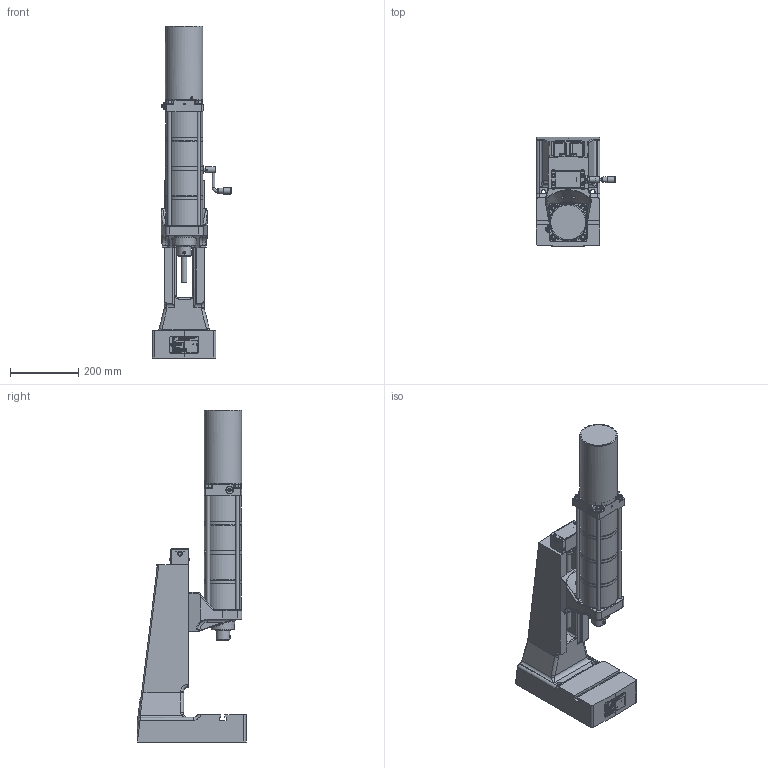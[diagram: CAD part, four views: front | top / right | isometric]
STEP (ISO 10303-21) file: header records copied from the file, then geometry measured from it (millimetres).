
FILE_DESCRIPTION(/* description */ ('Bausatz Ständer T460 N HV-OST'),/* implementation_level */ '2;1');
FILE_NAME(/* name */ 'B:\02_CAD_oeffentlich\CAD_3D_oeffentlich_step\Druckluftpresse\DRP_1700_040_100.stp',/* time_stamp */ '2017-08-25T08:47:36+02:00',/* author */ ('Finsterle'),/* organization */ (''),/* preprocessor_version */ 'ST-DEVELOPER v16.1',/* originating_system */ 'Autodesk Inventor 2016',/* authorisation */ '');
FILE_SCHEMA (('AUTOMOTIVE_DESIGN { 1 0 10303 214 3 1 1 }'));
Products named in the file (5): ENG-000341-1_V; ENG-001108_V; HBF-000760; ENG-000755; HBF-001060_V
Assembly tree (5 placements, depth 2):
  HBF-001060_V
    ENG-000341-1_V
    ENG-001108_V
    HBF-000760
    ENG-000755  x2
Bounding box: 231.79 x 321.2 x 973.78 mm (x, y, z)
Volume: 9868643.7 mm3; surface area: 1391132.9 mm2
Topology: 6 solids, 29 shells, 7849 faces, 21167 edges, 13802 vertices
Faces by surface type: plane 4664, bspline 2170, cylinder 545, cone 274, torus 120, sphere 76
Full cylindrical faces by diameter (mm): 1 x1, 2 x1, 2.459 x2, 3 x9, 3.242 x7, 3.5 x2, 3.65 x4, 4 x10, 4.134 x1, 4.5 x4, 4.917 x6, 5 x3, 6 x4, 6.2 x4, 6.5 x2, 6.647 x1, 8 x7, 8.4 x1, 8.5 x1, 10 x12, 10.02 x1, 10.106 x2, 10.5 x12, 11.8 x2, 12 x7, 13 x8, 13.5 x4, 14 x3, 14.376 x2, 14.95 x3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
Entity records: 267396 total; most frequent: CARTESIAN_POINT 80081, ORIENTED_EDGE 40892, DIRECTION 28928, EDGE_CURVE 20434, LINE 14076, VECTOR 14076, VERTEX_POINT 13641, EDGE_LOOP 8928
